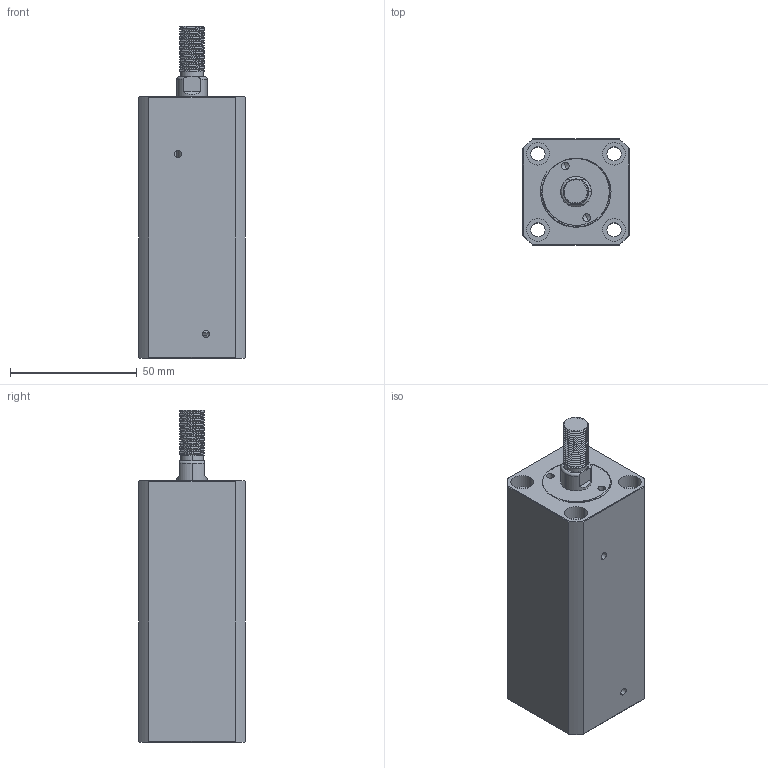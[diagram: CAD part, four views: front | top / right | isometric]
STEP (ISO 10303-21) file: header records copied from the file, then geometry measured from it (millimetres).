
FILE_DESCRIPTION (( 'STEP AP214' ), '1' );
FILE_NAME ('chtb-sdmb20x60w_asm.STEP', '2018-05-18T08:36:17', ( 'Windows' ), ( 'Microsoft' ), 'SwSTEP 2.0', 'SolidWorks 2015', '' );
FILE_SCHEMA (( 'AUTOMOTIVE_DESIGN' ));
Length unit declared in the file: millimetre
Products named in the file (4): QG_3; CHTB-SDMB20X60WHSG; CHTB-SDMB20X60NBT; chtb-sdmb20x60w_asm
Assembly tree (3 placements, depth 2):
  chtb-sdmb20x60w_asm
    CHTB-SDMB20X60NBT
    CHTB-SDMB20X60WHSG
    QG_3
Bounding box: 42 x 42 x 131 mm (x, y, z)
Volume: 154924.7 mm3; surface area: 45193.1 mm2
Topology: 3 solids, 3 shells, 243 faces, 660 edges, 439 vertices
Faces by surface type: cylinder 143, plane 47, torus 25, bspline 23, cone 5
Entity records: 14768 total; most frequent: CARTESIAN_POINT 8984, ORIENTED_EDGE 1312, DIRECTION 1058, EDGE_CURVE 656, VERTEX_POINT 439, AXIS2_PLACEMENT_3D 434, EDGE_LOOP 281, ADVANCED_FACE 243
